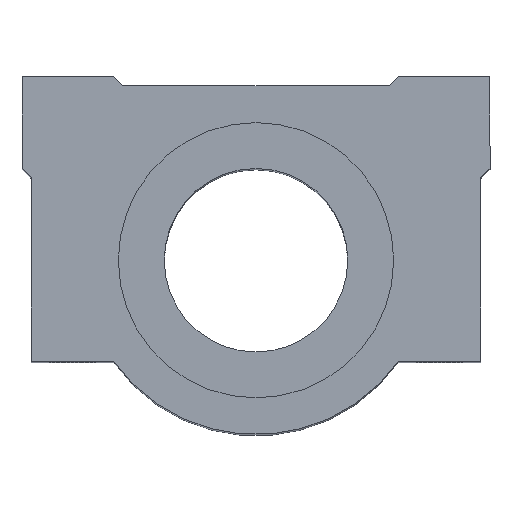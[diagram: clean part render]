
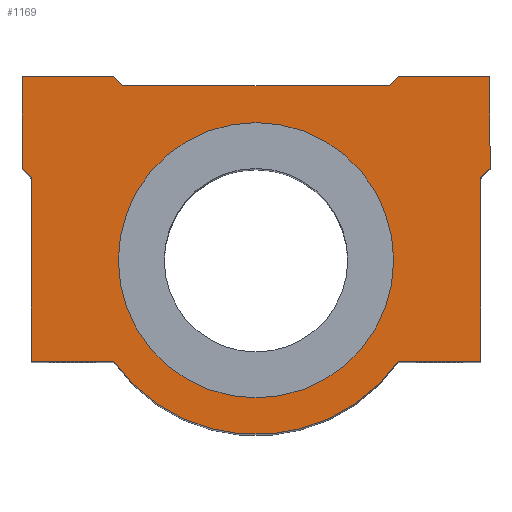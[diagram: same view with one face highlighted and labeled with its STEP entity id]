
A CAD part, top view. The second image highlights one B-rep face of the part: STEP entity #1169.
In plain terms, the highlighted planar face has unit normal (0, 0, 1).
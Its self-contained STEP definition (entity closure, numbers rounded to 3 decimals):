
#91=CARTESIAN_POINT('',(-30.709,4.198,173.0));
#92=VERTEX_POINT('',#91);
#101=CARTESIAN_POINT('',(29.291,4.198,173.0));
#102=VERTEX_POINT('',#101);
#103=CARTESIAN_POINT('',(-0.709,4.198,173.0));
#104=DIRECTION('',(0.0,0.0,-1.0));
#105=DIRECTION('',(-1.0,0.0,0.0));
#106=AXIS2_PLACEMENT_3D('',#103,#104,#105);
#107=CIRCLE('',#106,30.0);
#108=EDGE_CURVE('',#102,#92,#107,.T.);
#640=CARTESIAN_POINT('',(-0.709,4.198,173.0));
#641=DIRECTION('',(0.0,0.0,-1.0));
#642=DIRECTION('',(-1.0,0.0,0.0));
#643=AXIS2_PLACEMENT_3D('',#640,#641,#642);
#644=CIRCLE('',#643,30.0);
#645=EDGE_CURVE('',#92,#102,#644,.T.);
#780=CARTESIAN_POINT('',(50.291,24.198,173.0));
#781=VERTEX_POINT('',#780);
#782=CARTESIAN_POINT('',(48.291,22.198,173.0));
#783=VERTEX_POINT('',#782);
#784=CARTESIAN_POINT('',(50.291,24.198,173.0));
#785=DIRECTION('',(-0.707,-0.707,0.0));
#786=VECTOR('',#785,2.828);
#787=LINE('',#784,#786);
#788=EDGE_CURVE('',#781,#783,#787,.T.);
#811=CARTESIAN_POINT('',(48.291,-17.802,173.0));
#812=VERTEX_POINT('',#811);
#813=CARTESIAN_POINT('',(48.291,22.198,173.0));
#814=DIRECTION('',(0.0,-1.0,0.0));
#815=VECTOR('',#814,40.);
#816=LINE('',#813,#815);
#817=EDGE_CURVE('',#783,#812,#816,.T.);
#835=CARTESIAN_POINT('',(30.275,-17.802,173.0));
#836=VERTEX_POINT('',#835);
#837=CARTESIAN_POINT('',(48.291,-17.802,173.0));
#838=DIRECTION('',(-1.0,0.0,0.0));
#839=VECTOR('',#838,18.016);
#840=LINE('',#837,#839);
#841=EDGE_CURVE('',#812,#836,#840,.T.);
#867=CARTESIAN_POINT('',(-31.693,-17.802,173.0));
#868=VERTEX_POINT('',#867);
#869=CARTESIAN_POINT('',(-0.709,4.198,173.0));
#870=DIRECTION('',(0.0,0.0,-1.));
#871=DIRECTION('',(0.815,0.579,0.0));
#872=AXIS2_PLACEMENT_3D('',#869,#870,#871);
#873=CIRCLE('',#872,38.0);
#874=EDGE_CURVE('',#836,#868,#873,.T.);
#892=CARTESIAN_POINT('',(-49.709,-17.802,173.0));
#893=VERTEX_POINT('',#892);
#894=CARTESIAN_POINT('',(-31.693,-17.802,173.0));
#895=DIRECTION('',(-1.0,0.0,0.0));
#896=VECTOR('',#895,18.016);
#897=LINE('',#894,#896);
#898=EDGE_CURVE('',#868,#893,#897,.T.);
#924=CARTESIAN_POINT('',(-49.709,22.198,173.0));
#925=VERTEX_POINT('',#924);
#926=CARTESIAN_POINT('',(-49.709,-17.802,173.0));
#927=DIRECTION('',(0.0,1.0,0.0));
#928=VECTOR('',#927,40.0);
#929=LINE('',#926,#928);
#930=EDGE_CURVE('',#893,#925,#929,.T.);
#948=CARTESIAN_POINT('',(-51.709,24.198,173.0));
#949=VERTEX_POINT('',#948);
#950=CARTESIAN_POINT('',(-49.709,22.198,173.0));
#951=DIRECTION('',(-0.707,0.707,0.0));
#952=VECTOR('',#951,2.828);
#953=LINE('',#950,#952);
#954=EDGE_CURVE('',#925,#949,#953,.T.);
#972=CARTESIAN_POINT('',(-51.709,44.198,173.0));
#973=VERTEX_POINT('',#972);
#974=CARTESIAN_POINT('',(-51.709,24.198,173.0));
#975=DIRECTION('',(0.0,1.0,0.0));
#976=VECTOR('',#975,20.0);
#977=LINE('',#974,#976);
#978=EDGE_CURVE('',#949,#973,#977,.T.);
#996=CARTESIAN_POINT('',(-31.709,44.198,173.0));
#997=VERTEX_POINT('',#996);
#998=CARTESIAN_POINT('',(-51.709,44.198,173.0));
#999=DIRECTION('',(1.0,0.0,0.0));
#1000=VECTOR('',#999,20.);
#1001=LINE('',#998,#1000);
#1002=EDGE_CURVE('',#973,#997,#1001,.T.);
#1028=CARTESIAN_POINT('',(-29.709,42.198,173.0));
#1029=VERTEX_POINT('',#1028);
#1030=CARTESIAN_POINT('',(-31.709,44.198,173.0));
#1031=DIRECTION('',(0.707,-0.707,0.0));
#1032=VECTOR('',#1031,2.828);
#1033=LINE('',#1030,#1032);
#1034=EDGE_CURVE('',#997,#1029,#1033,.T.);
#1052=CARTESIAN_POINT('',(28.291,42.198,173.0));
#1053=VERTEX_POINT('',#1052);
#1054=CARTESIAN_POINT('',(-29.709,42.198,173.0));
#1055=DIRECTION('',(1.0,0.0,0.0));
#1056=VECTOR('',#1055,58.);
#1057=LINE('',#1054,#1056);
#1058=EDGE_CURVE('',#1029,#1053,#1057,.T.);
#1076=CARTESIAN_POINT('',(30.291,44.198,173.0));
#1077=VERTEX_POINT('',#1076);
#1078=CARTESIAN_POINT('',(28.291,42.198,173.0));
#1079=DIRECTION('',(0.707,0.707,0.0));
#1080=VECTOR('',#1079,2.828);
#1081=LINE('',#1078,#1080);
#1082=EDGE_CURVE('',#1053,#1077,#1081,.T.);
#1100=CARTESIAN_POINT('',(50.291,44.198,173.0));
#1101=VERTEX_POINT('',#1100);
#1102=CARTESIAN_POINT('',(30.291,44.198,173.0));
#1103=DIRECTION('',(1.0,0.0,0.0));
#1104=VECTOR('',#1103,20.);
#1105=LINE('',#1102,#1104);
#1106=EDGE_CURVE('',#1077,#1101,#1105,.T.);
#1132=CARTESIAN_POINT('',(50.291,44.198,173.0));
#1133=DIRECTION('',(0.0,-1.0,0.0));
#1134=VECTOR('',#1133,20.0);
#1135=LINE('',#1132,#1134);
#1136=EDGE_CURVE('',#1101,#781,#1135,.T.);
#1144=CARTESIAN_POINT('',(-0.709,10.416,173.0));
#1145=DIRECTION('',(0.0,0.0,1.0));
#1146=DIRECTION('',(1.0,0.0,0.0));
#1147=AXIS2_PLACEMENT_3D('',#1144,#1145,#1146);
#1148=PLANE('',#1147);
#1149=ORIENTED_EDGE('',*,*,#788,.F.);
#1150=ORIENTED_EDGE('',*,*,#1136,.F.);
#1151=ORIENTED_EDGE('',*,*,#1106,.F.);
#1152=ORIENTED_EDGE('',*,*,#1082,.F.);
#1153=ORIENTED_EDGE('',*,*,#1058,.F.);
#1154=ORIENTED_EDGE('',*,*,#1034,.F.);
#1155=ORIENTED_EDGE('',*,*,#1002,.F.);
#1156=ORIENTED_EDGE('',*,*,#978,.F.);
#1157=ORIENTED_EDGE('',*,*,#954,.F.);
#1158=ORIENTED_EDGE('',*,*,#930,.F.);
#1159=ORIENTED_EDGE('',*,*,#898,.F.);
#1160=ORIENTED_EDGE('',*,*,#874,.F.);
#1161=ORIENTED_EDGE('',*,*,#841,.F.);
#1162=ORIENTED_EDGE('',*,*,#817,.F.);
#1163=EDGE_LOOP('',(#1149,#1150,#1151,#1152,#1153,#1154,#1155,#1156,#1157,#1158,#1159,#1160,#1161,#1162));
#1164=FACE_OUTER_BOUND('',#1163,.T.);
#1165=ORIENTED_EDGE('',*,*,#108,.T.);
#1166=ORIENTED_EDGE('',*,*,#645,.T.);
#1167=EDGE_LOOP('',(#1165,#1166));
#1168=FACE_BOUND('',#1167,.T.);
#1169=ADVANCED_FACE('',(#1164,#1168),#1148,.T.);
